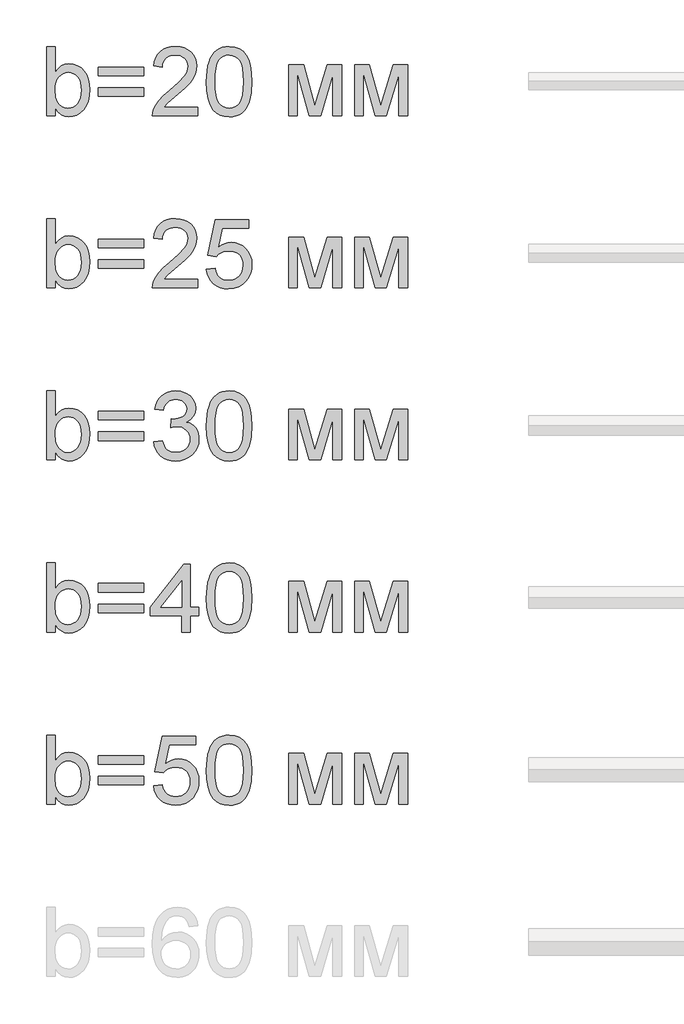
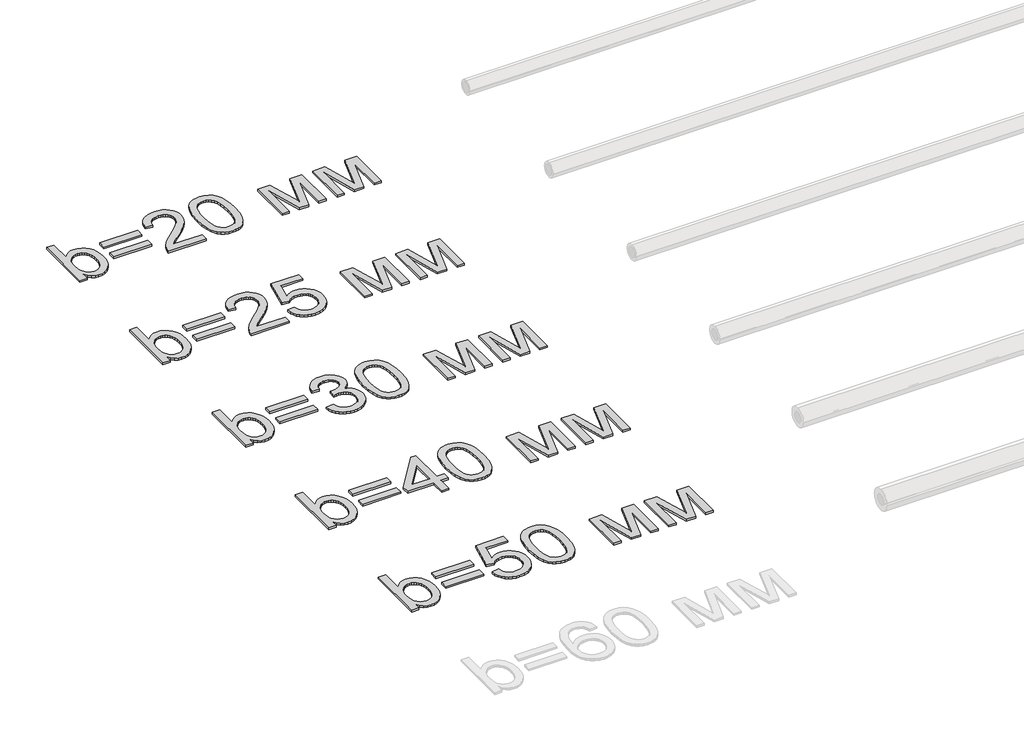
# One storey, part 62 of 86: 5 proxies.
"""IFC4 building model written with IfcOpenShell, lengths in millimetres."""

import ifcopenshell
import ifcopenshell.guid

model = None  # the IFC model being written
_history = None  # IfcOwnerHistory: only IFC2X3 demands one
_inside = {}  # id of a spatial element -> (the spatial element, [elements in it])
_under = {}  # id of a project, library or spatial element -> (it, [spatial elements below it])
_declared = {}  # id of a project -> (the project, [libraries it declares])
_typed = {}  # id of a type object -> (the type object, [elements of that type])
_made_of = {}  # id of a material, layer set ... -> (it, [elements and type objects made of it])


def new_model(schema):
    """Start an empty IFC model of exactly this schema.

    Asked for "IFC4X3", IfcOpenShell would pick the latest addendum, in which some entities
    have other attributes; the version numbers below select the first issue.
    IFC2X3 requires an IfcOwnerHistory on every rooted entity: one is made here for all.
    """
    global model, _history
    if schema == "IFC4X3":
        model = ifcopenshell.file(schema_version=(4, 3, 0, 0))
    else:
        model = ifcopenshell.file(schema=schema)
    _inside.clear()
    _under.clear()
    _declared.clear()
    _typed.clear()
    _made_of.clear()
    _history = None
    if model.schema == "IFC2X3":
        org = make("IfcOrganization", Name="unknown")
        user = make(
            "IfcPersonAndOrganization",
            ThePerson=make("IfcPerson", FamilyName="unknown"),
            TheOrganization=org,
        )
        app = make(
            "IfcApplication",
            ApplicationDeveloper=org,
            Version="unknown",
            ApplicationFullName="unknown",
            ApplicationIdentifier="unknown",
        )
        _history = make(
            "IfcOwnerHistory",
            OwningUser=user,
            OwningApplication=app,
            ChangeAction="ADDED",
            CreationDate=0,
        )
    return model


def make(cls, **values):
    """One entity of the class cls with the attributes given. An attribute that is None is left unset."""
    return model.create_entity(
        cls, **{name: value for name, value in values.items() if value is not None}
    )


def rooted(cls, **values):
    """An entity with a GlobalId (a new one), such as an element, a storey or a relation."""
    return make(cls, GlobalId=ifcopenshell.guid.new(), OwnerHistory=_history, **values)


def si_unit(unit_type, name, prefix=None):
    """IfcSIUnit, for example si_unit("LENGTHUNIT", "METRE", prefix="MILLI")."""
    return make("IfcSIUnit", UnitType=unit_type, Prefix=prefix, Name=name)


def assignment(units):
    """IfcUnitAssignment: the units of a project."""
    return None if units is None else make("IfcUnitAssignment", Units=units)


def point(xyz):
    """IfcCartesianPoint."""
    return None if xyz is None else make("IfcCartesianPoint", Coordinates=xyz)


def direction(xyz):
    """IfcDirection."""
    return None if xyz is None else make("IfcDirection", DirectionRatios=xyz)


def frame(location, z_axis=None, x_axis=None):
    """IfcAxis2Placement3D, a coordinate frame: its origin and axes. An axis left out is left unset."""
    return make(
        "IfcAxis2Placement3D",
        Location=point(location),
        Axis=direction(z_axis),
        RefDirection=direction(x_axis),
    )


def origin():
    """The frame at (0, 0, 0) with its axes left unset."""
    return frame((0.0, 0.0, 0.0))


def origin_with_axes():
    """The frame at (0, 0, 0) with the z axis (0, 0, 1) and the x axis (1, 0, 0) written out."""
    return frame((0.0, 0.0, 0.0), z_axis=(0.0, 0.0, 1.0), x_axis=(1.0, 0.0, 0.0))


def place(relative_to, where):
    """IfcLocalPlacement: puts the frame where relative to a parent placement (None: the world)."""
    return make(
        "IfcLocalPlacement", PlacementRelTo=relative_to, RelativePlacement=where
    )


def context(
    kind, dimensions, precision=None, world=None, true_north=None, identifier=None
):
    """IfcGeometricRepresentationContext, for example the 3D "Model" context."""
    return make(
        "IfcGeometricRepresentationContext",
        ContextIdentifier=identifier,
        ContextType=kind,
        CoordinateSpaceDimension=dimensions,
        Precision=precision,
        WorldCoordinateSystem=world,
        TrueNorth=true_north,
    )


def project(units=None, contexts=None):
    """IfcProject with its units and contexts."""
    return rooted(
        "IfcProject",
        Name="project",
        RepresentationContexts=contexts,
        UnitsInContext=assignment(units),
    )


def spatial(cls, under=None, at=None, **own):
    """A site, building, storey or space (cls), placed at a placement, below another one or the project."""
    s = rooted(cls, ObjectPlacement=at, **own)
    if under is not None:
        _under.setdefault(under.id(), (under, []))[1].append(s)
    return s


def polyline(points):
    """IfcPolyline through the points."""
    return make("IfcPolyline", Points=[point(p) for p in points])


def outline(outer, holes=None, kind="AREA"):
    """IfcArbitraryClosedProfileDef: a profile drawn as a closed curve; with holes, ...WithVoids."""
    if holes is None:
        return make("IfcArbitraryClosedProfileDef", ProfileType=kind, OuterCurve=outer)
    return make(
        "IfcArbitraryProfileDefWithVoids",
        ProfileType=kind,
        OuterCurve=outer,
        InnerCurves=holes,
    )


def extrude(swept, where, along, depth):
    """IfcExtrudedAreaSolid: the profile swept, set in the frame where, extruded along a direction by depth."""
    return make(
        "IfcExtrudedAreaSolid",
        SweptArea=swept,
        Position=where,
        ExtrudedDirection=direction(along),
        Depth=depth,
    )


def shape(context_of_items, identifier, shape_type, items):
    """IfcShapeRepresentation: the items that make up one representation, for example the "Body"."""
    return make(
        "IfcShapeRepresentation",
        ContextOfItems=context_of_items,
        RepresentationIdentifier=identifier,
        RepresentationType=shape_type,
        Items=items,
    )


def made_of(thing, what):
    """Note that an element or type object is made of a material, layer set ...; save() writes the relation."""
    if what is not None:
        _made_of.setdefault(what.id(), (what, []))[1].append(thing)
    return thing


def element(
    cls,
    number,
    at=None,
    inside=None,
    cuts=None,
    type_object=None,
    material=None,
    context=None,
    identifier="Body",
    shape_type=None,
    held_by="IfcProductDefinitionShape",
    body=None,
    shapes=None,
    **own,
):
    """One element of the class cls, such as IfcWall. Its Tag is "e" and its number.

    at: its placement. inside: the storey or other place that contains it. cuts: it is an
    opening in that element (IfcRelVoidsElement). A single representation is given by context,
    identifier, shape_type and body (its items); several are given by shapes. held_by: the class
    of the entity that holds the representations. save() writes the other relations.
    """
    e = rooted(cls, Tag="e%d" % number, ObjectPlacement=at, **own)
    if body is not None:
        shapes = [shape(context, identifier, shape_type, body)]
    if shapes is not None:
        e.Representation = make(held_by, Representations=shapes)
    if inside is not None:
        _inside.setdefault(inside.id(), (inside, []))[1].append(e)
    if cuts is not None:
        rooted(
            "IfcRelVoidsElement", RelatingBuildingElement=cuts, RelatedOpeningElement=e
        )
    if type_object is not None:
        _typed.setdefault(type_object.id(), (type_object, []))[1].append(e)
    return made_of(e, material)


def aggregate(whole, parts):
    """IfcRelAggregates: a whole, such as a stair, and the parts it consists of."""
    return rooted("IfcRelAggregates", RelatingObject=whole, RelatedObjects=parts)


def save(model, path):
    """Write the relations noted so far, then the file.

    IfcRelAggregates (storeys below a building ...), IfcRelContainedInSpatialStructure (elements
    in a storey), IfcRelDefinesByType, IfcRelAssociatesMaterial and IfcRelDeclares: one each for
    every whole, place, type object, material and project.
    """
    for whole, parts in _under.values():
        aggregate(whole, parts)
    for where, things in _inside.values():
        rooted(
            "IfcRelContainedInSpatialStructure",
            RelatedElements=things,
            RelatingStructure=where,
        )
    for kind, things in _typed.values():
        rooted("IfcRelDefinesByType", RelatedObjects=things, RelatingType=kind)
    for what, things in _made_of.values():
        rooted("IfcRelAssociatesMaterial", RelatedObjects=things, RelatingMaterial=what)
    for by, libraries in _declared.values():
        rooted("IfcRelDeclares", RelatingContext=by, RelatedDefinitions=libraries)
    model.write(path)


model = new_model("IFC4")

# Units and contexts
model_context = context("Model", 3, world=origin())
ifc_project = project(units=[si_unit("LENGTHUNIT", "METRE", prefix="MILLI")], contexts=[model_context])

# Site, building, storey
site = spatial("IfcSite", under=ifc_project)
building = spatial("IfcBuilding", under=site)
storey = spatial("IfcBuildingStorey", under=building, Name="Уровень 1", Elevation=0.0)

# Proxies
placement = place(None, origin())
element("IfcBuildingElementProxy", 1, Name="Текст модели 1", ObjectType="Текст модели 1", at=placement, inside=storey, context=model_context, shape_type="SweptSolid", body=[
    extrude(outline(polyline([(47159.6307988, 59169.2937088), (47084.2885662, 59169.2937088), (47084.2885662, 59772.0315697), (47159.6307988, 59772.0315697), (47159.6307988, 59548.5064694), (47184.4076512, 59580.3742473), (47212.3850769, 59603.1369457), (47243.563076, 59616.7945648), (47277.9416484, 59621.3471045), (47316.7531989, 59617.2452202), (47353.4310339, 59604.9395675), (47385.8782258, 59585.2026984), (47411.9978475, 59558.8071653), (47432.4704805, 59526.0104854), (47447.9767066, 59487.0701762), (47457.7439736, 59443.6049185), (47460.9997292, 59397.233393), (47457.6290105, 59343.7249568), (47447.5168541, 59296.6544555), (47430.6632602, 59256.0218892), (47407.0682288, 59221.8272577), (47378.7459136, 59194.7235517), (47347.7104688, 59175.3637617), (47313.9618943, 59163.7478877), (47277.50019, 59159.8759297), (47241.9903805, 59164.8699278), (47210.5088787, 59179.8519221), (47183.0556848, 59204.8219125), (47159.6307988, 59239.7798991), (47159.6307988, 59169.2937088)]), holes=[polyline([(47159.6307988, 59393.7017259), (47164.7811467, 59330.8674811), (47171.2190816, 59307.065516), (47180.2321905, 59288.3403224), (47198.4883345, 59265.0993774), (47219.7059286, 59248.4987024), (47243.8849727, 59238.5382973), (47271.0254669, 59235.2181623), (47293.5582391, 59237.6645776), (47314.5091188, 59245.0038234), (47333.8781058, 59257.2358997), (47351.6652003, 59274.3608066), (47366.5368299, 59296.3325588), (47377.1594225, 59323.105171), (47383.5329781, 59354.6786432), (47385.6574966, 59391.0529755), (47383.6203501, 59428.1170865), (47377.5089104, 59459.9940614), (47367.3231777, 59486.6839001), (47353.0631519, 59508.1866028), (47335.9152524, 59524.7320955), (47317.0658986, 59536.5503046), (47296.5150907, 59543.64123), (47274.2628285, 59546.0048719), (47251.7300563, 59543.5584566), (47230.7791767, 59536.2192108), (47211.4101896, 59523.9871344), (47193.6230951, 59506.8622276), (47178.7514655, 59485.1112046), (47168.1288729, 59459.00078), (47161.7553173, 59428.5309538), (47159.6307988, 59393.7017259)])]), origin_with_axes(), (0.0, 0.0, 1.0), 20.0),
    extrude(outline(polyline([(47931.8886831, 59517.7515346), (47536.3419619, 59517.7515346), (47536.3419619, 59593.0937672), (47931.8886831, 59593.0937672), (47931.8886831, 59517.7515346)])), origin_with_axes(), (0.0, 0.0, 1.0), 20.0),
    extrude(outline(polyline([(47931.8886831, 59338.8137322), (47536.3419619, 59338.8137322), (47536.3419619, 59414.1559648), (47931.8886831, 59414.1559648), (47931.8886831, 59338.8137322)])), origin_with_axes(), (0.0, 0.0, 1.0), 20.0),
    extrude(outline(polyline([(48402.7776369, 59244.6359414), (48402.7776369, 59169.2937088), (48007.2309157, 59169.2937088), (48008.8863847, 59195.8180007), (48015.3243196, 59221.2386465), (48033.9023603, 59261.8344247), (48061.0888398, 59301.2161923), (48100.4154251, 59342.4373698), (48155.4137833, 59388.5513779), (48236.7157043, 59460.7666136), (48285.4968568, 59514.0727147), (48299.724693, 59535.8513288), (48309.8874331, 59557.3356373), (48315.9850772, 59578.5256402), (48318.0176252, 59599.4213376), (48316.1000403, 59619.0800317), (48310.3472856, 59637.1476362), (48300.7593611, 59653.624151), (48287.3362668, 59668.5095763), (48270.8229638, 59680.8382216), (48251.964413, 59689.6443969), (48230.7606145, 59694.928102), (48207.2115683, 59696.6893371), (48182.4025262, 59694.9694888), (48160.2146434, 59689.8099438), (48140.6479198, 59681.2107021), (48123.7023554, 59669.1717638), (48109.9941525, 59654.0977991), (48100.1395136, 59636.3934781), (48094.1384385, 59616.0588008), (48091.9909274, 59593.0937672), (48016.6486948, 59602.5115463), (48023.1280164, 59641.4058703), (48034.9140358, 59675.3889696), (48052.006753, 59704.4608442), (48074.406168, 59728.6214943), (48101.597246, 59747.6134023), (48133.0649521, 59761.1790508), (48168.8092865, 59769.31844), (48208.830249, 59772.0315697), (48249.2098965, 59769.0149373), (48285.1473689, 59759.9650403), (48316.6426663, 59744.8818785), (48343.6957885, 59723.7654519), (48365.4238188, 59698.1792592), (48380.9438405, 59669.6867986), (48390.2558535, 59638.2880704), (48393.3598578, 59603.9830743), (48390.0121317, 59567.9490329), (48379.9689532, 59532.5403908), (48362.1450705, 59496.5247435), (48335.4552318, 59458.6696862), (48292.909679, 59413.4753831), (48227.5186544, 59355.4419984), (48140.8456563, 59282.9692453), (48106.85336, 59244.6359414), (48402.7776369, 59244.6359414)])), origin_with_axes(), (0.0, 0.0, 1.0), 20.0),
    extrude(outline(polyline([(48478.1198695, 59465.8065969), (48483.6564935, 59562.2836501), (48490.5772736, 59603.1967265), (48500.2663656, 59639.2261694), (48512.682383, 59670.6662845), (48527.7839389, 59697.8113772), (48545.5710333, 59720.6614476), (48566.0436664, 59739.2164957), (48589.2708158, 59753.5730906), (48615.3214596, 59763.8278012), (48644.1955977, 59769.9806276), (48675.8932301, 59772.0315697), (48722.3199379, 59767.1755274), (48763.8906034, 59752.6074004), (48798.6554519, 59728.8974058), (48824.664709, 59696.6157607), (48844.3096075, 59656.0383766), (48859.9813805, 59607.4411651), (48870.2452882, 59545.7289604), (48873.6665907, 59465.8065969), (48868.185149, 59369.8813667), (48861.3333468, 59329.106246), (48851.7408238, 59293.1227884), (48839.4213755, 59261.6688778), (48824.3887975, 59234.4823983), (48806.6430897, 59211.56335), (48786.1842523, 59192.9117329), (48762.9295116, 59178.458569), (48736.7960944, 59168.1348805), (48707.7840006, 59161.9406674), (48675.8932301, 59159.8759297), (48634.3961411, 59163.4627792), (48597.6079415, 59174.2233275), (48565.5286316, 59192.1575748), (48538.1582111, 59217.265521), (48511.8914367, 59262.6529621), (48493.1294549, 59319.2056218), (48481.8722659, 59386.9235001), (48478.1198695, 59465.8065969)]), holes=[polyline([(48553.4621021, 59465.9537497), (48555.6693941, 59400.456959), (48562.29127, 59347.440565), (48573.3277299, 59306.9045676), (48588.7787737, 59278.848967), (48607.467179, 59259.7604899), (48628.2157235, 59246.1258635), (48651.0244072, 59237.9450876), (48675.8932301, 59235.2181623), (48700.762053, 59237.9542847), (48723.5707367, 59246.1626517), (48744.3192812, 59259.8432634), (48763.0076866, 59278.9961198), (48778.4587304, 59307.0977057), (48789.4951902, 59347.624506), (48796.1170661, 59400.5765206), (48798.3243581, 59465.9537497), (48796.1906425, 59529.7168965), (48789.7894958, 59581.79979), (48779.120918, 59622.2024301), (48764.184909, 59650.9248169), (48745.8092033, 59670.9467945), (48724.8215355, 59685.248207), (48701.2219055, 59693.8290546), (48675.0103133, 59696.6893371), (48650.2702492, 59694.1693454), (48627.8478415, 59686.6093704), (48607.7430905, 59674.0094121), (48589.955996, 59656.3694704), (48573.9899175, 59625.0995008), (48562.5855756, 59582.9402242), (48555.7429705, 59529.8916405), (48553.4621021, 59465.9537497)])]), origin_with_axes(), (0.0, 0.0, 1.0), 20.0),
    extrude(outline(polyline([(49193.8710793, 59611.9293254), (49323.5126944, 59611.9293254), (49423.4294443, 59257.5853876), (49531.1452925, 59611.9293254), (49655.3422541, 59611.9293254), (49655.3422541, 59169.2937088), (49580.0000215, 59169.2937088), (49580.0000215, 59525.6977857), (49471.6955621, 59169.2937088), (49372.8088818, 59169.2937088), (49269.2133119, 59542.7675103), (49269.2133119, 59169.2937088), (49193.8710793, 59169.2937088), (49193.8710793, 59611.9293254)])), origin_with_axes(), (0.0, 0.0, 1.0), 20.0),
    extrude(outline(polyline([(49768.355603, 59611.9293254), (49897.9972181, 59611.9293254), (49997.913968, 59257.5853876), (50105.6298162, 59611.9293254), (50229.8267777, 59611.9293254), (50229.8267777, 59169.2937088), (50154.4845451, 59169.2937088), (50154.4845451, 59525.6977857), (50046.1800857, 59169.2937088), (49947.2934054, 59169.2937088), (49843.6978356, 59542.7675103), (49843.6978356, 59169.2937088), (49768.355603, 59169.2937088), (49768.355603, 59611.9293254)])), origin_with_axes(), (0.0, 0.0, 1.0), 20.0),
])
element("IfcBuildingElementProxy", 2, Name="Текст модели 1", ObjectType="Текст модели 1", at=placement, inside=storey, context=model_context, shape_type="SweptSolid", body=[
    extrude(outline(polyline([(47159.6307988, 57669.2937088), (47084.2885662, 57669.2937088), (47084.2885662, 58272.0315697), (47159.6307988, 58272.0315697), (47159.6307988, 58048.5064694), (47184.4076512, 58080.3742473), (47212.3850769, 58103.1369457), (47243.563076, 58116.7945648), (47277.9416484, 58121.3471045), (47316.7531989, 58117.2452202), (47353.4310339, 58104.9395675), (47385.8782258, 58085.2026984), (47411.9978475, 58058.8071653), (47432.4704805, 58026.0104854), (47447.9767066, 57987.0701762), (47457.7439736, 57943.6049185), (47460.9997292, 57897.233393), (47457.6290105, 57843.7249568), (47447.5168541, 57796.6544555), (47430.6632602, 57756.0218892), (47407.0682288, 57721.8272577), (47378.7459136, 57694.7235517), (47347.7104688, 57675.3637617), (47313.9618943, 57663.7478877), (47277.50019, 57659.8759297), (47241.9903805, 57664.8699278), (47210.5088787, 57679.8519221), (47183.0556848, 57704.8219125), (47159.6307988, 57739.7798991), (47159.6307988, 57669.2937088)]), holes=[polyline([(47159.6307988, 57893.7017259), (47164.7811467, 57830.8674811), (47171.2190816, 57807.065516), (47180.2321905, 57788.3403224), (47198.4883345, 57765.0993774), (47219.7059286, 57748.4987024), (47243.8849727, 57738.5382973), (47271.0254669, 57735.2181623), (47293.5582391, 57737.6645776), (47314.5091188, 57745.0038234), (47333.8781058, 57757.2358997), (47351.6652003, 57774.3608066), (47366.5368299, 57796.3325588), (47377.1594225, 57823.105171), (47383.5329781, 57854.6786432), (47385.6574966, 57891.0529755), (47383.6203501, 57928.1170865), (47377.5089104, 57959.9940614), (47367.3231777, 57986.6839001), (47353.0631519, 58008.1866028), (47335.9152524, 58024.7320955), (47317.0658986, 58036.5503046), (47296.5150907, 58043.64123), (47274.2628285, 58046.0048719), (47251.7300563, 58043.5584566), (47230.7791767, 58036.2192108), (47211.4101896, 58023.9871344), (47193.6230951, 58006.8622276), (47178.7514655, 57985.1112046), (47168.1288729, 57959.00078), (47161.7553173, 57928.5309538), (47159.6307988, 57893.7017259)])]), origin_with_axes(), (0.0, 0.0, 1.0), 20.0),
    extrude(outline(polyline([(47931.8886831, 58017.7515346), (47536.3419619, 58017.7515346), (47536.3419619, 58093.0937672), (47931.8886831, 58093.0937672), (47931.8886831, 58017.7515346)])), origin_with_axes(), (0.0, 0.0, 1.0), 20.0),
    extrude(outline(polyline([(47931.8886831, 57838.8137322), (47536.3419619, 57838.8137322), (47536.3419619, 57914.1559648), (47931.8886831, 57914.1559648), (47931.8886831, 57838.8137322)])), origin_with_axes(), (0.0, 0.0, 1.0), 20.0),
    extrude(outline(polyline([(48402.7776369, 57744.6359414), (48402.7776369, 57669.2937088), (48007.2309157, 57669.2937088), (48008.8863847, 57695.8180007), (48015.3243196, 57721.2386465), (48033.9023603, 57761.8344247), (48061.0888398, 57801.2161923), (48100.4154251, 57842.4373698), (48155.4137833, 57888.5513779), (48236.7157043, 57960.7666136), (48285.4968568, 58014.0727147), (48299.724693, 58035.8513288), (48309.8874331, 58057.3356373), (48315.9850772, 58078.5256402), (48318.0176252, 58099.4213376), (48316.1000403, 58119.0800317), (48310.3472856, 58137.1476362), (48300.7593611, 58153.624151), (48287.3362668, 58168.5095763), (48270.8229638, 58180.8382216), (48251.964413, 58189.6443969), (48230.7606145, 58194.928102), (48207.2115683, 58196.6893371), (48182.4025262, 58194.9694888), (48160.2146434, 58189.8099438), (48140.6479198, 58181.2107021), (48123.7023554, 58169.1717638), (48109.9941525, 58154.0977991), (48100.1395136, 58136.3934781), (48094.1384385, 58116.0588008), (48091.9909274, 58093.0937672), (48016.6486948, 58102.5115463), (48023.1280164, 58141.4058703), (48034.9140358, 58175.3889696), (48052.006753, 58204.4608442), (48074.406168, 58228.6214943), (48101.597246, 58247.6134023), (48133.0649521, 58261.1790508), (48168.8092865, 58269.31844), (48208.830249, 58272.0315697), (48249.2098965, 58269.0149373), (48285.1473689, 58259.9650403), (48316.6426663, 58244.8818785), (48343.6957885, 58223.7654519), (48365.4238188, 58198.1792592), (48380.9438405, 58169.6867986), (48390.2558535, 58138.2880704), (48393.3598578, 58103.9830743), (48390.0121317, 58067.9490329), (48379.9689532, 58032.5403908), (48362.1450705, 57996.5247435), (48335.4552318, 57958.6696862), (48292.909679, 57913.4753831), (48227.5186544, 57855.4419984), (48140.8456563, 57782.9692453), (48106.85336, 57744.6359414), (48402.7776369, 57744.6359414)])), origin_with_axes(), (0.0, 0.0, 1.0), 20.0),
    extrude(outline(polyline([(48478.1198695, 57829.3959531), (48553.4621021, 57838.8137322), (48559.0906966, 57814.5933013), (48567.2944651, 57793.5826409), (48578.0734076, 57775.7817508), (48591.427524, 57761.1906312), (48607.3292233, 57749.8276761), (48625.7509142, 57741.7112795), (48646.6925967, 57736.8414416), (48670.154271, 57735.2181623), (48698.8490666, 57737.4760381), (48724.1593479, 57744.2496653), (48746.0851148, 57755.539044), (48764.6263674, 57771.3441743), (48779.3692383, 57790.8833067), (48789.8998604, 57813.3746922), (48796.2182337, 57838.8183307), (48798.3243581, 57867.2142222), (48796.3515909, 57894.0512138), (48790.4332893, 57917.9083611), (48780.5694533, 57938.7856644), (48766.7600829, 57956.6831234), (48748.9591929, 57971.0397183), (48727.1207979, 57981.2944289), (48701.2448981, 57987.4472553), (48671.3314934, 57989.4981974), (48634.7824172, 57986.2240476), (48605.1863106, 57976.4015984), (48581.5498925, 57961.3552248), (48562.8798812, 57942.409302), (48487.5376486, 57951.8270811), (48553.4621021, 58262.6137906), (48845.4132535, 58262.6137906), (48845.4132535, 58187.271558), (48614.3833605, 58187.271558), (48582.1568977, 58021.2832018), (48608.7455689, 58040.3394891), (48635.9780336, 58053.951123), (48663.8542918, 58062.1181032), (48692.3743435, 58064.84043), (48729.065974, 58061.4651127), (48762.7685633, 58051.3391608), (48793.4821113, 58034.4625743), (48821.2066182, 58010.8353531), (48844.1578562, 57981.9014342), (48860.5515976, 57949.1047543), (48870.3878424, 57912.4453135), (48873.6665907, 57871.9231117), (48870.7143377, 57832.8908321), (48861.8575787, 57796.5808791), (48847.0963136, 57762.993253), (48826.4305425, 57732.1279536), (48795.1237848, 57700.5176931), (48758.5931026, 57677.9389357), (48716.8384962, 57664.3916812), (48669.8599654, 57659.8759297), (48630.979437, 57662.777599), (48595.8605021, 57671.4826067), (48564.5031605, 57685.9909529), (48536.9074123, 57706.3026375), (48513.9469773, 57731.4059852), (48496.4955752, 57760.2893203), (48484.5532059, 57792.952643), (48478.1198695, 57829.3959531)])), origin_with_axes(), (0.0, 0.0, 1.0), 20.0),
    extrude(outline(polyline([(49193.8710793, 58111.9293254), (49323.5126944, 58111.9293254), (49423.4294443, 57757.5853876), (49531.1452925, 58111.9293254), (49655.3422541, 58111.9293254), (49655.3422541, 57669.2937088), (49580.0000215, 57669.2937088), (49580.0000215, 58025.6977857), (49471.6955621, 57669.2937088), (49372.8088818, 57669.2937088), (49269.2133119, 58042.7675103), (49269.2133119, 57669.2937088), (49193.8710793, 57669.2937088), (49193.8710793, 58111.9293254)])), origin_with_axes(), (0.0, 0.0, 1.0), 20.0),
    extrude(outline(polyline([(49768.355603, 58111.9293254), (49897.9972181, 58111.9293254), (49997.913968, 57757.5853876), (50105.6298162, 58111.9293254), (50229.8267777, 58111.9293254), (50229.8267777, 57669.2937088), (50154.4845451, 57669.2937088), (50154.4845451, 58025.6977857), (50046.1800857, 57669.2937088), (49947.2934054, 57669.2937088), (49843.6978356, 58042.7675103), (49843.6978356, 57669.2937088), (49768.355603, 57669.2937088), (49768.355603, 58111.9293254)])), origin_with_axes(), (0.0, 0.0, 1.0), 20.0),
])
element("IfcBuildingElementProxy", 3, Name="Текст модели 1", ObjectType="Текст модели 1", at=placement, inside=storey, context=model_context, shape_type="SweptSolid", body=[
    extrude(outline(polyline([(47159.6307988, 56169.2937088), (47084.2885662, 56169.2937088), (47084.2885662, 56772.0315697), (47159.6307988, 56772.0315697), (47159.6307988, 56548.5064694), (47184.4076512, 56580.3742473), (47212.3850769, 56603.1369457), (47243.563076, 56616.7945648), (47277.9416484, 56621.3471045), (47316.7531989, 56617.2452202), (47353.4310339, 56604.9395675), (47385.8782258, 56585.2026984), (47411.9978475, 56558.8071653), (47432.4704805, 56526.0104854), (47447.9767066, 56487.0701762), (47457.7439736, 56443.6049185), (47460.9997292, 56397.233393), (47457.6290105, 56343.7249568), (47447.5168541, 56296.6544555), (47430.6632602, 56256.0218892), (47407.0682288, 56221.8272577), (47378.7459136, 56194.7235517), (47347.7104688, 56175.3637617), (47313.9618943, 56163.7478877), (47277.50019, 56159.8759297), (47241.9903805, 56164.8699278), (47210.5088787, 56179.8519221), (47183.0556848, 56204.8219125), (47159.6307988, 56239.7798991), (47159.6307988, 56169.2937088)]), holes=[polyline([(47159.6307988, 56393.7017259), (47164.7811467, 56330.8674811), (47171.2190816, 56307.065516), (47180.2321905, 56288.3403224), (47198.4883345, 56265.0993774), (47219.7059286, 56248.4987024), (47243.8849727, 56238.5382973), (47271.0254669, 56235.2181623), (47293.5582391, 56237.6645776), (47314.5091188, 56245.0038234), (47333.8781058, 56257.2358997), (47351.6652003, 56274.3608066), (47366.5368299, 56296.3325588), (47377.1594225, 56323.105171), (47383.5329781, 56354.6786432), (47385.6574966, 56391.0529755), (47383.6203501, 56428.1170865), (47377.5089104, 56459.9940614), (47367.3231777, 56486.6839001), (47353.0631519, 56508.1866028), (47335.9152524, 56524.7320955), (47317.0658986, 56536.5503046), (47296.5150907, 56543.64123), (47274.2628285, 56546.0048719), (47251.7300563, 56543.5584566), (47230.7791767, 56536.2192108), (47211.4101896, 56523.9871344), (47193.6230951, 56506.8622276), (47178.7514655, 56485.1112046), (47168.1288729, 56459.00078), (47161.7553173, 56428.5309538), (47159.6307988, 56393.7017259)])]), origin_with_axes(), (0.0, 0.0, 1.0), 20.0),
    extrude(outline(polyline([(47931.8886831, 56517.7515346), (47536.3419619, 56517.7515346), (47536.3419619, 56593.0937672), (47931.8886831, 56593.0937672), (47931.8886831, 56517.7515346)])), origin_with_axes(), (0.0, 0.0, 1.0), 20.0),
    extrude(outline(polyline([(47931.8886831, 56338.8137322), (47536.3419619, 56338.8137322), (47536.3419619, 56414.1559648), (47931.8886831, 56414.1559648), (47931.8886831, 56338.8137322)])), origin_with_axes(), (0.0, 0.0, 1.0), 20.0),
    extrude(outline(polyline([(48016.6486948, 56329.3959531), (48091.9909274, 56338.8137322), (48108.8583168, 56291.4673194), (48120.230469, 56273.5606633), (48133.5615928, 56259.498374), (48149.1551909, 56248.8757814), (48167.3147659, 56241.2882153), (48188.0403178, 56236.7356756), (48211.3318466, 56235.2181623), (48238.6286906, 56237.3058927), (48262.9824787, 56243.5690836), (48284.3932108, 56254.0077352), (48302.860887, 56268.6218475), (48317.7325167, 56286.3169715), (48328.3551093, 56305.9986582), (48334.7286648, 56327.6669077), (48336.8531834, 56351.32172), (48334.7470589, 56373.8498937), (48328.4286857, 56394.3455193), (48317.8980636, 56412.808597), (48303.1551926, 56429.2391266), (48285.165763, 56442.7266002), (48264.8954651, 56452.36051), (48242.3442988, 56458.1408558), (48217.5122641, 56460.0676378), (48193.710299, 56458.0074986), (48164.6844096, 56451.8270811), (48173.0721191, 56527.1693137), (48185.1386485, 56526.2863969), (48230.2777694, 56531.6942622), (48270.6344242, 56547.9178582), (48287.2442963, 56560.1867228), (48299.1084907, 56575.3618551), (48306.2270073, 56593.4432551), (48308.5998461, 56614.430923), (48306.8799978, 56631.4684579), (48301.7204528, 56646.9700854), (48293.1212112, 56660.9358057), (48281.0822729, 56673.3656186), (48266.3302049, 56683.5697454), (48249.5915741, 56690.8584075), (48210.1546242, 56696.6893371), (48189.4980502, 56695.2178091), (48170.6440979, 56690.8032252), (48153.5927675, 56683.4455853), (48138.3440588, 56673.1448894), (48125.2750509, 56659.9011376), (48114.7628229, 56643.7143298), (48106.8073747, 56624.584466), (48101.4087064, 56602.5115463), (48026.0664738, 56611.9293254), (48034.9968093, 56647.8989875), (48048.2497581, 56679.5828243), (48065.8253205, 56706.9808359), (48087.7234962, 56730.0930222), (48113.2545067, 56748.4411368), (48141.7285731, 56761.5469328), (48173.1456955, 56769.4104105), (48207.5058739, 56772.0315697), (48254.8706807, 56766.8628277), (48298.3727267, 56751.3566016), (48335.0505616, 56726.8924489), (48361.9427354, 56694.8499271), (48378.4422429, 56657.9329689), (48383.9420787, 56618.8455069), (48378.7181544, 56582.4251894), (48363.0463814, 56549.3893862), (48337.147489, 56521.2464136), (48301.2422062, 56499.5045877), (48326.3501524, 56491.6503071), (48348.404678, 56480.4483003), (48367.4057831, 56465.8985674), (48383.3534676, 56448.0011083), (48395.97182, 56427.1973815), (48404.9849289, 56403.9288453), (48410.3927942, 56378.1954998), (48412.195416, 56349.9973448), (48408.5901724, 56311.7744055), (48397.7744418, 56276.5680986), (48379.748224, 56244.378424), (48354.5115191, 56215.2053818), (48323.7657814, 56190.9987465), (48289.212465, 56173.7082927), (48250.8515699, 56163.3340205), (48208.6830962, 56159.8759297), (48170.5705215, 56162.8281827), (48135.8424612, 56171.6849418), (48104.4989152, 56186.4462068), (48076.5398836, 56207.1119779), (48053.0966034, 56232.4682444), (48035.3003119, 56261.3009958), (48023.151009, 56293.610232), (48016.6486948, 56329.3959531)])), origin_with_axes(), (0.0, 0.0, 1.0), 20.0),
    extrude(outline(polyline([(48478.1198695, 56465.8065969), (48483.6564935, 56562.2836501), (48490.5772736, 56603.1967265), (48500.2663656, 56639.2261694), (48512.682383, 56670.6662845), (48527.7839389, 56697.8113772), (48545.5710333, 56720.6614476), (48566.0436664, 56739.2164957), (48589.2708158, 56753.5730906), (48615.3214596, 56763.8278012), (48644.1955977, 56769.9806276), (48675.8932301, 56772.0315697), (48722.3199379, 56767.1755274), (48763.8906034, 56752.6074004), (48798.6554519, 56728.8974058), (48824.664709, 56696.6157607), (48844.3096075, 56656.0383766), (48859.9813805, 56607.4411651), (48870.2452882, 56545.7289604), (48873.6665907, 56465.8065969), (48868.185149, 56369.8813667), (48861.3333468, 56329.106246), (48851.7408238, 56293.1227884), (48839.4213755, 56261.6688778), (48824.3887975, 56234.4823983), (48806.6430897, 56211.56335), (48786.1842523, 56192.9117329), (48762.9295116, 56178.458569), (48736.7960944, 56168.1348805), (48707.7840006, 56161.9406674), (48675.8932301, 56159.8759297), (48634.3961411, 56163.4627792), (48597.6079415, 56174.2233275), (48565.5286316, 56192.1575748), (48538.1582111, 56217.265521), (48511.8914367, 56262.6529621), (48493.1294549, 56319.2056218), (48481.8722659, 56386.9235001), (48478.1198695, 56465.8065969)]), holes=[polyline([(48553.4621021, 56465.9537497), (48555.6693941, 56400.456959), (48562.29127, 56347.440565), (48573.3277299, 56306.9045676), (48588.7787737, 56278.848967), (48607.467179, 56259.7604899), (48628.2157235, 56246.1258635), (48651.0244072, 56237.9450876), (48675.8932301, 56235.2181623), (48700.762053, 56237.9542847), (48723.5707367, 56246.1626517), (48744.3192812, 56259.8432634), (48763.0076866, 56278.9961198), (48778.4587304, 56307.0977057), (48789.4951902, 56347.624506), (48796.1170661, 56400.5765206), (48798.3243581, 56465.9537497), (48796.1906425, 56529.7168965), (48789.7894958, 56581.79979), (48779.120918, 56622.2024301), (48764.184909, 56650.9248169), (48745.8092033, 56670.9467945), (48724.8215355, 56685.248207), (48701.2219055, 56693.8290546), (48675.0103133, 56696.6893371), (48650.2702492, 56694.1693454), (48627.8478415, 56686.6093704), (48607.7430905, 56674.0094121), (48589.955996, 56656.3694704), (48573.9899175, 56625.0995008), (48562.5855756, 56582.9402242), (48555.7429705, 56529.8916405), (48553.4621021, 56465.9537497)])]), origin_with_axes(), (0.0, 0.0, 1.0), 20.0),
    extrude(outline(polyline([(49193.8710793, 56611.9293254), (49323.5126944, 56611.9293254), (49423.4294443, 56257.5853876), (49531.1452925, 56611.9293254), (49655.3422541, 56611.9293254), (49655.3422541, 56169.2937088), (49580.0000215, 56169.2937088), (49580.0000215, 56525.6977857), (49471.6955621, 56169.2937088), (49372.8088818, 56169.2937088), (49269.2133119, 56542.7675103), (49269.2133119, 56169.2937088), (49193.8710793, 56169.2937088), (49193.8710793, 56611.9293254)])), origin_with_axes(), (0.0, 0.0, 1.0), 20.0),
    extrude(outline(polyline([(49768.355603, 56611.9293254), (49897.9972181, 56611.9293254), (49997.913968, 56257.5853876), (50105.6298162, 56611.9293254), (50229.8267777, 56611.9293254), (50229.8267777, 56169.2937088), (50154.4845451, 56169.2937088), (50154.4845451, 56525.6977857), (50046.1800857, 56169.2937088), (49947.2934054, 56169.2937088), (49843.6978356, 56542.7675103), (49843.6978356, 56169.2937088), (49768.355603, 56169.2937088), (49768.355603, 56611.9293254)])), origin_with_axes(), (0.0, 0.0, 1.0), 20.0),
])
element("IfcBuildingElementProxy", 4, Name="Текст модели 1", ObjectType="Текст модели 1", at=placement, inside=storey, context=model_context, shape_type="SweptSolid", body=[
    extrude(outline(polyline([(47159.6307988, 54669.2937088), (47084.2885662, 54669.2937088), (47084.2885662, 55272.0315697), (47159.6307988, 55272.0315697), (47159.6307988, 55048.5064694), (47184.4076512, 55080.3742473), (47212.3850769, 55103.1369457), (47243.563076, 55116.7945648), (47277.9416484, 55121.3471045), (47316.7531989, 55117.2452202), (47353.4310339, 55104.9395675), (47385.8782258, 55085.2026984), (47411.9978475, 55058.8071653), (47432.4704805, 55026.0104854), (47447.9767066, 54987.0701762), (47457.7439736, 54943.6049185), (47460.9997292, 54897.233393), (47457.6290105, 54843.7249568), (47447.5168541, 54796.6544555), (47430.6632602, 54756.0218892), (47407.0682288, 54721.8272577), (47378.7459136, 54694.7235517), (47347.7104688, 54675.3637617), (47313.9618943, 54663.7478877), (47277.50019, 54659.8759297), (47241.9903805, 54664.8699278), (47210.5088787, 54679.8519221), (47183.0556848, 54704.8219125), (47159.6307988, 54739.7798991), (47159.6307988, 54669.2937088)]), holes=[polyline([(47159.6307988, 54893.7017259), (47164.7811467, 54830.8674811), (47171.2190816, 54807.065516), (47180.2321905, 54788.3403224), (47198.4883345, 54765.0993774), (47219.7059286, 54748.4987024), (47243.8849727, 54738.5382973), (47271.0254669, 54735.2181623), (47293.5582391, 54737.6645776), (47314.5091188, 54745.0038234), (47333.8781058, 54757.2358997), (47351.6652003, 54774.3608066), (47366.5368299, 54796.3325588), (47377.1594225, 54823.105171), (47383.5329781, 54854.6786432), (47385.6574966, 54891.0529755), (47383.6203501, 54928.1170865), (47377.5089104, 54959.9940614), (47367.3231777, 54986.6839001), (47353.0631519, 55008.1866028), (47335.9152524, 55024.7320955), (47317.0658986, 55036.5503046), (47296.5150907, 55043.64123), (47274.2628285, 55046.0048719), (47251.7300563, 55043.5584566), (47230.7791767, 55036.2192108), (47211.4101896, 55023.9871344), (47193.6230951, 55006.8622276), (47178.7514655, 54985.1112046), (47168.1288729, 54959.00078), (47161.7553173, 54928.5309538), (47159.6307988, 54893.7017259)])]), origin_with_axes(), (0.0, 0.0, 1.0), 20.0),
    extrude(outline(polyline([(47931.8886831, 55017.7515346), (47536.3419619, 55017.7515346), (47536.3419619, 55093.0937672), (47931.8886831, 55093.0937672), (47931.8886831, 55017.7515346)])), origin_with_axes(), (0.0, 0.0, 1.0), 20.0),
    extrude(outline(polyline([(47931.8886831, 54838.8137322), (47536.3419619, 54838.8137322), (47536.3419619, 54914.1559648), (47931.8886831, 54914.1559648), (47931.8886831, 54838.8137322)])), origin_with_axes(), (0.0, 0.0, 1.0), 20.0),
    extrude(outline(polyline([(48261.5109507, 54669.2937088), (48261.5109507, 54810.5603949), (47988.3953575, 54810.5603949), (47988.3953575, 54885.9026276), (48280.3465089, 55262.6137906), (48336.8531834, 55262.6137906), (48336.8531834, 54885.9026276), (48412.195416, 54885.9026276), (48412.195416, 54810.5603949), (48336.8531834, 54810.5603949), (48336.8531834, 54669.2937088), (48261.5109507, 54669.2937088)]), holes=[polyline([(48261.5109507, 54885.9026276), (48261.5109507, 55118.6983541), (48081.1016203, 54885.9026276), (48261.5109507, 54885.9026276)])]), origin_with_axes(), (0.0, 0.0, 1.0), 20.0),
    extrude(outline(polyline([(48478.1198695, 54965.8065969), (48483.6564935, 55062.2836501), (48490.5772736, 55103.1967265), (48500.2663656, 55139.2261694), (48512.682383, 55170.6662845), (48527.7839389, 55197.8113772), (48545.5710333, 55220.6614476), (48566.0436664, 55239.2164957), (48589.2708158, 55253.5730906), (48615.3214596, 55263.8278012), (48644.1955977, 55269.9806276), (48675.8932301, 55272.0315697), (48722.3199379, 55267.1755274), (48763.8906034, 55252.6074004), (48798.6554519, 55228.8974058), (48824.664709, 55196.6157607), (48844.3096075, 55156.0383766), (48859.9813805, 55107.4411651), (48870.2452882, 55045.7289604), (48873.6665907, 54965.8065969), (48868.185149, 54869.8813667), (48861.3333468, 54829.106246), (48851.7408238, 54793.1227884), (48839.4213755, 54761.6688778), (48824.3887975, 54734.4823983), (48806.6430897, 54711.56335), (48786.1842523, 54692.9117329), (48762.9295116, 54678.458569), (48736.7960944, 54668.1348805), (48707.7840006, 54661.9406674), (48675.8932301, 54659.8759297), (48634.3961411, 54663.4627792), (48597.6079415, 54674.2233275), (48565.5286316, 54692.1575748), (48538.1582111, 54717.265521), (48511.8914367, 54762.6529621), (48493.1294549, 54819.2056218), (48481.8722659, 54886.9235001), (48478.1198695, 54965.8065969)]), holes=[polyline([(48553.4621021, 54965.9537497), (48555.6693941, 54900.456959), (48562.29127, 54847.440565), (48573.3277299, 54806.9045676), (48588.7787737, 54778.848967), (48607.467179, 54759.7604899), (48628.2157235, 54746.1258635), (48651.0244072, 54737.9450876), (48675.8932301, 54735.2181623), (48700.762053, 54737.9542847), (48723.5707367, 54746.1626517), (48744.3192812, 54759.8432634), (48763.0076866, 54778.9961198), (48778.4587304, 54807.0977057), (48789.4951902, 54847.624506), (48796.1170661, 54900.5765206), (48798.3243581, 54965.9537497), (48796.1906425, 55029.7168965), (48789.7894958, 55081.79979), (48779.120918, 55122.2024301), (48764.184909, 55150.9248169), (48745.8092033, 55170.9467945), (48724.8215355, 55185.248207), (48701.2219055, 55193.8290546), (48675.0103133, 55196.6893371), (48650.2702492, 55194.1693454), (48627.8478415, 55186.6093704), (48607.7430905, 55174.0094121), (48589.955996, 55156.3694704), (48573.9899175, 55125.0995008), (48562.5855756, 55082.9402242), (48555.7429705, 55029.8916405), (48553.4621021, 54965.9537497)])]), origin_with_axes(), (0.0, 0.0, 1.0), 20.0),
    extrude(outline(polyline([(49193.8710793, 55111.9293254), (49323.5126944, 55111.9293254), (49423.4294443, 54757.5853876), (49531.1452925, 55111.9293254), (49655.3422541, 55111.9293254), (49655.3422541, 54669.2937088), (49580.0000215, 54669.2937088), (49580.0000215, 55025.6977857), (49471.6955621, 54669.2937088), (49372.8088818, 54669.2937088), (49269.2133119, 55042.7675103), (49269.2133119, 54669.2937088), (49193.8710793, 54669.2937088), (49193.8710793, 55111.9293254)])), origin_with_axes(), (0.0, 0.0, 1.0), 20.0),
    extrude(outline(polyline([(49768.355603, 55111.9293254), (49897.9972181, 55111.9293254), (49997.913968, 54757.5853876), (50105.6298162, 55111.9293254), (50229.8267777, 55111.9293254), (50229.8267777, 54669.2937088), (50154.4845451, 54669.2937088), (50154.4845451, 55025.6977857), (50046.1800857, 54669.2937088), (49947.2934054, 54669.2937088), (49843.6978356, 55042.7675103), (49843.6978356, 54669.2937088), (49768.355603, 54669.2937088), (49768.355603, 55111.9293254)])), origin_with_axes(), (0.0, 0.0, 1.0), 20.0),
])
element("IfcBuildingElementProxy", 5, Name="Текст модели 1", ObjectType="Текст модели 1", at=placement, inside=storey, context=model_context, shape_type="SweptSolid", body=[
    extrude(outline(polyline([(47159.6307988, 53169.2937088), (47084.2885662, 53169.2937088), (47084.2885662, 53772.0315697), (47159.6307988, 53772.0315697), (47159.6307988, 53548.5064694), (47184.4076512, 53580.3742473), (47212.3850769, 53603.1369457), (47243.563076, 53616.7945648), (47277.9416484, 53621.3471045), (47316.7531989, 53617.2452202), (47353.4310339, 53604.9395675), (47385.8782258, 53585.2026984), (47411.9978475, 53558.8071653), (47432.4704805, 53526.0104854), (47447.9767066, 53487.0701762), (47457.7439736, 53443.6049185), (47460.9997292, 53397.233393), (47457.6290105, 53343.7249568), (47447.5168541, 53296.6544555), (47430.6632602, 53256.0218892), (47407.0682288, 53221.8272577), (47378.7459136, 53194.7235517), (47347.7104688, 53175.3637617), (47313.9618943, 53163.7478877), (47277.50019, 53159.8759297), (47241.9903805, 53164.8699278), (47210.5088787, 53179.8519221), (47183.0556848, 53204.8219125), (47159.6307988, 53239.7798991), (47159.6307988, 53169.2937088)]), holes=[polyline([(47159.6307988, 53393.7017259), (47164.7811467, 53330.8674811), (47171.2190816, 53307.065516), (47180.2321905, 53288.3403224), (47198.4883345, 53265.0993774), (47219.7059286, 53248.4987024), (47243.8849727, 53238.5382973), (47271.0254669, 53235.2181623), (47293.5582391, 53237.6645776), (47314.5091188, 53245.0038234), (47333.8781058, 53257.2358997), (47351.6652003, 53274.3608066), (47366.5368299, 53296.3325588), (47377.1594225, 53323.105171), (47383.5329781, 53354.6786432), (47385.6574966, 53391.0529755), (47383.6203501, 53428.1170865), (47377.5089104, 53459.9940614), (47367.3231777, 53486.6839001), (47353.0631519, 53508.1866028), (47335.9152524, 53524.7320955), (47317.0658986, 53536.5503046), (47296.5150907, 53543.64123), (47274.2628285, 53546.0048719), (47251.7300563, 53543.5584566), (47230.7791767, 53536.2192108), (47211.4101896, 53523.9871344), (47193.6230951, 53506.8622276), (47178.7514655, 53485.1112046), (47168.1288729, 53459.00078), (47161.7553173, 53428.5309538), (47159.6307988, 53393.7017259)])]), origin_with_axes(), (0.0, 0.0, 1.0), 20.0),
    extrude(outline(polyline([(47931.8886831, 53517.7515346), (47536.3419619, 53517.7515346), (47536.3419619, 53593.0937672), (47931.8886831, 53593.0937672), (47931.8886831, 53517.7515346)])), origin_with_axes(), (0.0, 0.0, 1.0), 20.0),
    extrude(outline(polyline([(47931.8886831, 53338.8137322), (47536.3419619, 53338.8137322), (47536.3419619, 53414.1559648), (47931.8886831, 53414.1559648), (47931.8886831, 53338.8137322)])), origin_with_axes(), (0.0, 0.0, 1.0), 20.0),
    extrude(outline(polyline([(48016.6486948, 53329.3959531), (48091.9909274, 53338.8137322), (48097.6195219, 53314.5933013), (48105.8232904, 53293.5826409), (48116.6022328, 53275.7817508), (48129.9563493, 53261.1906312), (48145.8580485, 53249.8276761), (48164.2797394, 53241.7112795), (48185.221422, 53236.8414416), (48208.6830962, 53235.2181623), (48237.3778919, 53237.4760381), (48262.6881731, 53244.2496653), (48284.61394, 53255.539044), (48303.1551926, 53271.3441743), (48317.8980636, 53290.8833067), (48328.4286857, 53313.3746922), (48334.7470589, 53338.8183307), (48336.8531834, 53367.2142222), (48334.8804162, 53394.0512138), (48328.9621146, 53417.9083611), (48319.0982786, 53438.7856644), (48305.2889082, 53456.6831234), (48287.4880181, 53471.0397183), (48265.6496232, 53481.2944289), (48239.7737234, 53487.4472553), (48209.8603186, 53489.4981974), (48173.3112424, 53486.2240476), (48143.7151359, 53476.4015984), (48120.0787177, 53461.3552248), (48101.4087064, 53442.409302), (48026.0664738, 53451.8270811), (48091.9909274, 53762.6137906), (48383.9420787, 53762.6137906), (48383.9420787, 53687.271558), (48152.9121858, 53687.271558), (48120.685723, 53521.2832018), (48147.2743942, 53540.3394891), (48174.5068589, 53553.951123), (48202.3831171, 53562.1181032), (48230.9031687, 53564.84043), (48267.5947992, 53561.4651127), (48301.2973885, 53551.3391608), (48332.0109366, 53534.4625743), (48359.7354435, 53510.8353531), (48382.6866814, 53481.9014342), (48399.0804228, 53449.1047543), (48408.9166677, 53412.4453135), (48412.195416, 53371.9231117), (48409.243163, 53332.8908321), (48400.3864039, 53296.5808791), (48385.6251389, 53262.993253), (48364.9593678, 53232.1279536), (48333.65261, 53200.5176931), (48297.1219279, 53177.9389357), (48255.3673214, 53164.3916812), (48208.3887906, 53159.8759297), (48169.5082623, 53162.777599), (48134.3893273, 53171.4826067), (48103.0319858, 53185.9909529), (48075.4362376, 53206.3026375), (48052.4758026, 53231.4059852), (48035.0244004, 53260.2893203), (48023.0820311, 53292.952643), (48016.6486948, 53329.3959531)])), origin_with_axes(), (0.0, 0.0, 1.0), 20.0),
    extrude(outline(polyline([(48478.1198695, 53465.8065969), (48483.6564935, 53562.2836501), (48490.5772736, 53603.1967265), (48500.2663656, 53639.2261694), (48512.682383, 53670.6662845), (48527.7839389, 53697.8113772), (48545.5710333, 53720.6614476), (48566.0436664, 53739.2164957), (48589.2708158, 53753.5730906), (48615.3214596, 53763.8278012), (48644.1955977, 53769.9806276), (48675.8932301, 53772.0315697), (48722.3199379, 53767.1755274), (48763.8906034, 53752.6074004), (48798.6554519, 53728.8974058), (48824.664709, 53696.6157607), (48844.3096075, 53656.0383766), (48859.9813805, 53607.4411651), (48870.2452882, 53545.7289604), (48873.6665907, 53465.8065969), (48868.185149, 53369.8813667), (48861.3333468, 53329.106246), (48851.7408238, 53293.1227884), (48839.4213755, 53261.6688778), (48824.3887975, 53234.4823983), (48806.6430897, 53211.56335), (48786.1842523, 53192.9117329), (48762.9295116, 53178.458569), (48736.7960944, 53168.1348805), (48707.7840006, 53161.9406674), (48675.8932301, 53159.8759297), (48634.3961411, 53163.4627792), (48597.6079415, 53174.2233275), (48565.5286316, 53192.1575748), (48538.1582111, 53217.265521), (48511.8914367, 53262.6529621), (48493.1294549, 53319.2056218), (48481.8722659, 53386.9235001), (48478.1198695, 53465.8065969)]), holes=[polyline([(48553.4621021, 53465.9537497), (48555.6693941, 53400.456959), (48562.29127, 53347.440565), (48573.3277299, 53306.9045676), (48588.7787737, 53278.848967), (48607.467179, 53259.7604899), (48628.2157235, 53246.1258635), (48651.0244072, 53237.9450876), (48675.8932301, 53235.2181623), (48700.762053, 53237.9542847), (48723.5707367, 53246.1626517), (48744.3192812, 53259.8432634), (48763.0076866, 53278.9961198), (48778.4587304, 53307.0977057), (48789.4951902, 53347.624506), (48796.1170661, 53400.5765206), (48798.3243581, 53465.9537497), (48796.1906425, 53529.7168965), (48789.7894958, 53581.79979), (48779.120918, 53622.2024301), (48764.184909, 53650.9248169), (48745.8092033, 53670.9467945), (48724.8215355, 53685.248207), (48701.2219055, 53693.8290546), (48675.0103133, 53696.6893371), (48650.2702492, 53694.1693454), (48627.8478415, 53686.6093704), (48607.7430905, 53674.0094121), (48589.955996, 53656.3694704), (48573.9899175, 53625.0995008), (48562.5855756, 53582.9402242), (48555.7429705, 53529.8916405), (48553.4621021, 53465.9537497)])]), origin_with_axes(), (0.0, 0.0, 1.0), 20.0),
    extrude(outline(polyline([(49193.8710793, 53611.9293254), (49323.5126944, 53611.9293254), (49423.4294443, 53257.5853876), (49531.1452925, 53611.9293254), (49655.3422541, 53611.9293254), (49655.3422541, 53169.2937088), (49580.0000215, 53169.2937088), (49580.0000215, 53525.6977857), (49471.6955621, 53169.2937088), (49372.8088818, 53169.2937088), (49269.2133119, 53542.7675103), (49269.2133119, 53169.2937088), (49193.8710793, 53169.2937088), (49193.8710793, 53611.9293254)])), origin_with_axes(), (0.0, 0.0, 1.0), 20.0),
    extrude(outline(polyline([(49768.355603, 53611.9293254), (49897.9972181, 53611.9293254), (49997.913968, 53257.5853876), (50105.6298162, 53611.9293254), (50229.8267777, 53611.9293254), (50229.8267777, 53169.2937088), (50154.4845451, 53169.2937088), (50154.4845451, 53525.6977857), (50046.1800857, 53169.2937088), (49947.2934054, 53169.2937088), (49843.6978356, 53542.7675103), (49843.6978356, 53169.2937088), (49768.355603, 53169.2937088), (49768.355603, 53611.9293254)])), origin_with_axes(), (0.0, 0.0, 1.0), 20.0),
])

save(model, "model.ifc")
